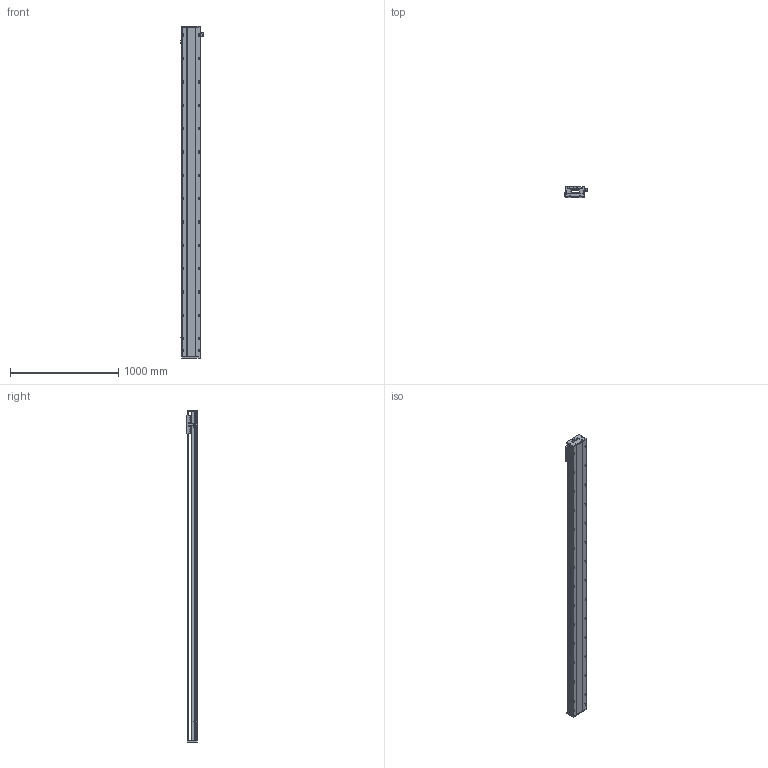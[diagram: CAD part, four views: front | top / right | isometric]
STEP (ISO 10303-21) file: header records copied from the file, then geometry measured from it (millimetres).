
FILE_DESCRIPTION (( 'STEP AP203' ), '1' );
FILE_NAME ('SKR17S-C1-S2802（简）.STEP', '2022-09-29T06:49:23', ( '' ), ( '' ), 'SwSTEP 2.0', 'SolidWorks 2018', '' );
FILE_SCHEMA (( 'CONFIG_CONTROL_DESIGN' ));
Length unit declared in the file: millimetre
Products named in the file (8): SKR17滑台-170L（简）; EE-SX672; SKR17底座-C1-S2802（简); 棠掑假蚾輸; SKR17耜啣; 感应片（SKR12S-14S-17S）; SKR17S-C1-S2802（简）; SIKO棠掑
Assembly tree (10 placements, depth 2):
  SKR17S-C1-S2802（简）
    SKR17底座-C1-S2802（简)
    SKR17滑台-170L（简）
    SIKO棠掑
    EE-SX672  x3
    SKR17耜啣  x2
    棠掑假蚾輸
    感应片（SKR12S-14S-17S）
Bounding box: 212.7 x 97 x 3072 mm (x, y, z)
Volume: 23280017.4 mm3; surface area: 2788112.1 mm2
Topology: 11 solids, 11 shells, 1521 faces, 4257 edges, 2736 vertices
Faces by surface type: cylinder 776, plane 593, cone 152
Entity records: 48774 total; most frequent: CARTESIAN_POINT 13961, ORIENTED_EDGE 7470, DIRECTION 6652, EDGE_CURVE 3735, VERTEX_POINT 2440, AXIS2_PLACEMENT_3D 2379, LINE 1894, VECTOR 1894
